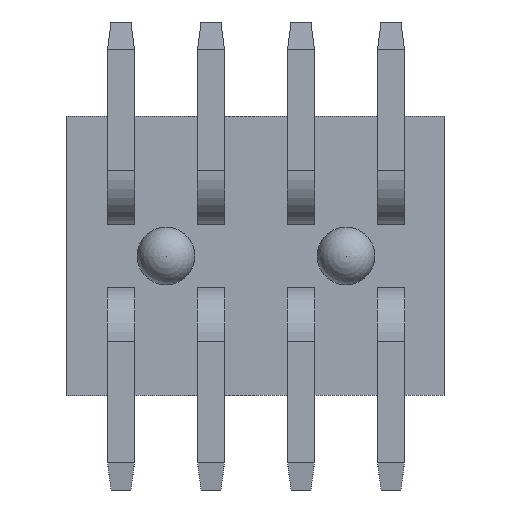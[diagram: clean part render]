
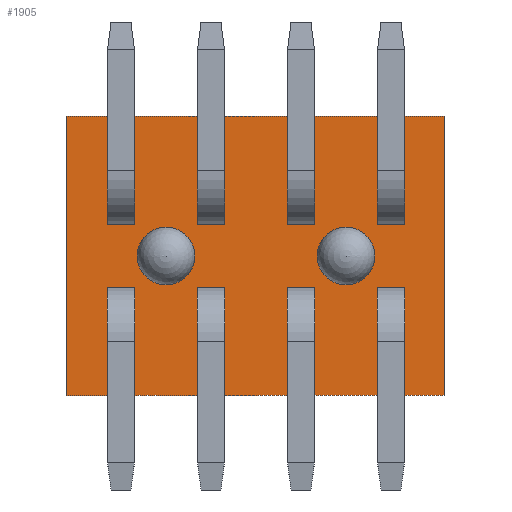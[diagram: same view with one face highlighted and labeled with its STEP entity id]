
A CAD part, front view. The second image highlights one B-rep face of the part: STEP entity #1905.
In plain terms, the highlighted planar face has unit normal (0, -1, 0).
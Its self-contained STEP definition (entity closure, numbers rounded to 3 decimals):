
#61=CIRCLE('',#2041,0.32);
#62=CIRCLE('',#2042,0.32);
#247=ORIENTED_EDGE('',*,*,#689,.F.);
#248=ORIENTED_EDGE('',*,*,#690,.F.);
#249=ORIENTED_EDGE('',*,*,#661,.T.);
#250=ORIENTED_EDGE('',*,*,#685,.T.);
#251=ORIENTED_EDGE('',*,*,#668,.T.);
#252=ORIENTED_EDGE('',*,*,#665,.T.);
#253=ORIENTED_EDGE('',*,*,#651,.T.);
#254=ORIENTED_EDGE('',*,*,#683,.T.);
#255=ORIENTED_EDGE('',*,*,#658,.T.);
#256=ORIENTED_EDGE('',*,*,#655,.T.);
#257=ORIENTED_EDGE('',*,*,#641,.T.);
#258=ORIENTED_EDGE('',*,*,#681,.T.);
#259=ORIENTED_EDGE('',*,*,#648,.T.);
#260=ORIENTED_EDGE('',*,*,#645,.T.);
#261=ORIENTED_EDGE('',*,*,#631,.T.);
#262=ORIENTED_EDGE('',*,*,#679,.T.);
#263=ORIENTED_EDGE('',*,*,#638,.T.);
#264=ORIENTED_EDGE('',*,*,#635,.T.);
#265=ORIENTED_EDGE('',*,*,#621,.T.);
#266=ORIENTED_EDGE('',*,*,#677,.T.);
#267=ORIENTED_EDGE('',*,*,#628,.T.);
#268=ORIENTED_EDGE('',*,*,#625,.T.);
#269=ORIENTED_EDGE('',*,*,#611,.T.);
#270=ORIENTED_EDGE('',*,*,#675,.T.);
#271=ORIENTED_EDGE('',*,*,#618,.T.);
#272=ORIENTED_EDGE('',*,*,#615,.T.);
#273=ORIENTED_EDGE('',*,*,#601,.T.);
#274=ORIENTED_EDGE('',*,*,#673,.T.);
#275=ORIENTED_EDGE('',*,*,#608,.T.);
#276=ORIENTED_EDGE('',*,*,#605,.T.);
#277=ORIENTED_EDGE('',*,*,#591,.T.);
#278=ORIENTED_EDGE('',*,*,#671,.T.);
#279=ORIENTED_EDGE('',*,*,#598,.T.);
#280=ORIENTED_EDGE('',*,*,#595,.T.);
#281=ORIENTED_EDGE('',*,*,#581,.F.);
#282=ORIENTED_EDGE('',*,*,#687,.F.);
#283=ORIENTED_EDGE('',*,*,#588,.F.);
#284=ORIENTED_EDGE('',*,*,#585,.F.);
#581=EDGE_CURVE('',#838,#839,#1008,.T.);
#585=EDGE_CURVE('',#839,#842,#1012,.T.);
#588=EDGE_CURVE('',#842,#844,#1015,.T.);
#591=EDGE_CURVE('',#846,#847,#1018,.T.);
#595=EDGE_CURVE('',#850,#846,#1022,.T.);
#598=EDGE_CURVE('',#852,#850,#1025,.T.);
#601=EDGE_CURVE('',#854,#855,#1028,.T.);
#605=EDGE_CURVE('',#858,#854,#1032,.T.);
#608=EDGE_CURVE('',#860,#858,#1035,.T.);
#611=EDGE_CURVE('',#862,#863,#1038,.T.);
#615=EDGE_CURVE('',#866,#862,#1042,.T.);
#618=EDGE_CURVE('',#868,#866,#1045,.T.);
#621=EDGE_CURVE('',#870,#871,#1048,.T.);
#625=EDGE_CURVE('',#874,#870,#1052,.T.);
#628=EDGE_CURVE('',#876,#874,#1055,.T.);
#631=EDGE_CURVE('',#878,#879,#1058,.T.);
#635=EDGE_CURVE('',#882,#878,#1062,.T.);
#638=EDGE_CURVE('',#884,#882,#1065,.T.);
#641=EDGE_CURVE('',#886,#887,#1068,.T.);
#645=EDGE_CURVE('',#890,#886,#1072,.T.);
#648=EDGE_CURVE('',#892,#890,#1075,.T.);
#651=EDGE_CURVE('',#894,#895,#1078,.T.);
#655=EDGE_CURVE('',#898,#894,#1082,.T.);
#658=EDGE_CURVE('',#900,#898,#1085,.T.);
#661=EDGE_CURVE('',#902,#903,#1088,.T.);
#665=EDGE_CURVE('',#906,#902,#1092,.T.);
#668=EDGE_CURVE('',#908,#906,#1095,.T.);
#671=EDGE_CURVE('',#847,#852,#1098,.T.);
#673=EDGE_CURVE('',#855,#860,#1100,.T.);
#675=EDGE_CURVE('',#863,#868,#1102,.T.);
#677=EDGE_CURVE('',#871,#876,#1104,.T.);
#679=EDGE_CURVE('',#879,#884,#1106,.T.);
#681=EDGE_CURVE('',#887,#892,#1108,.T.);
#683=EDGE_CURVE('',#895,#900,#1110,.T.);
#685=EDGE_CURVE('',#903,#908,#1112,.T.);
#687=EDGE_CURVE('',#844,#838,#1114,.T.);
#689=EDGE_CURVE('',#910,#910,#61,.F.);
#690=EDGE_CURVE('',#911,#911,#62,.F.);
#838=VERTEX_POINT('',#2598);
#839=VERTEX_POINT('',#2599);
#842=VERTEX_POINT('',#2607);
#844=VERTEX_POINT('',#2613);
#846=VERTEX_POINT('',#2619);
#847=VERTEX_POINT('',#2620);
#850=VERTEX_POINT('',#2628);
#852=VERTEX_POINT('',#2634);
#854=VERTEX_POINT('',#2640);
#855=VERTEX_POINT('',#2641);
#858=VERTEX_POINT('',#2649);
#860=VERTEX_POINT('',#2655);
#862=VERTEX_POINT('',#2661);
#863=VERTEX_POINT('',#2662);
#866=VERTEX_POINT('',#2670);
#868=VERTEX_POINT('',#2676);
#870=VERTEX_POINT('',#2682);
#871=VERTEX_POINT('',#2683);
#874=VERTEX_POINT('',#2691);
#876=VERTEX_POINT('',#2697);
#878=VERTEX_POINT('',#2703);
#879=VERTEX_POINT('',#2704);
#882=VERTEX_POINT('',#2712);
#884=VERTEX_POINT('',#2718);
#886=VERTEX_POINT('',#2724);
#887=VERTEX_POINT('',#2725);
#890=VERTEX_POINT('',#2733);
#892=VERTEX_POINT('',#2739);
#894=VERTEX_POINT('',#2745);
#895=VERTEX_POINT('',#2746);
#898=VERTEX_POINT('',#2754);
#900=VERTEX_POINT('',#2760);
#902=VERTEX_POINT('',#2766);
#903=VERTEX_POINT('',#2767);
#906=VERTEX_POINT('',#2775);
#908=VERTEX_POINT('',#2781);
#910=VERTEX_POINT('',#2815);
#911=VERTEX_POINT('',#2817);
#1008=LINE('',#2597,#1259);
#1012=LINE('',#2606,#1263);
#1015=LINE('',#2612,#1266);
#1018=LINE('',#2618,#1269);
#1022=LINE('',#2627,#1273);
#1025=LINE('',#2633,#1276);
#1028=LINE('',#2639,#1279);
#1032=LINE('',#2648,#1283);
#1035=LINE('',#2654,#1286);
#1038=LINE('',#2660,#1289);
#1042=LINE('',#2669,#1293);
#1045=LINE('',#2675,#1296);
#1048=LINE('',#2681,#1299);
#1052=LINE('',#2690,#1303);
#1055=LINE('',#2696,#1306);
#1058=LINE('',#2702,#1309);
#1062=LINE('',#2711,#1313);
#1065=LINE('',#2717,#1316);
#1068=LINE('',#2723,#1319);
#1072=LINE('',#2732,#1323);
#1075=LINE('',#2738,#1326);
#1078=LINE('',#2744,#1329);
#1082=LINE('',#2753,#1333);
#1085=LINE('',#2759,#1336);
#1088=LINE('',#2765,#1339);
#1092=LINE('',#2774,#1343);
#1095=LINE('',#2780,#1346);
#1098=LINE('',#2786,#1349);
#1100=LINE('',#2789,#1351);
#1102=LINE('',#2792,#1353);
#1104=LINE('',#2795,#1355);
#1106=LINE('',#2798,#1357);
#1108=LINE('',#2801,#1359);
#1110=LINE('',#2804,#1361);
#1112=LINE('',#2807,#1363);
#1114=LINE('',#2810,#1365);
#1259=VECTOR('',#2120,1000.);
#1263=VECTOR('',#2126,1000.);
#1266=VECTOR('',#2131,1000.);
#1269=VECTOR('',#2136,1000.);
#1273=VECTOR('',#2142,1000.);
#1276=VECTOR('',#2147,1000.);
#1279=VECTOR('',#2152,1000.);
#1283=VECTOR('',#2158,1000.);
#1286=VECTOR('',#2163,1000.);
#1289=VECTOR('',#2168,1000.);
#1293=VECTOR('',#2174,1000.);
#1296=VECTOR('',#2179,1000.);
#1299=VECTOR('',#2184,1000.);
#1303=VECTOR('',#2190,1000.);
#1306=VECTOR('',#2195,1000.);
#1309=VECTOR('',#2200,1000.);
#1313=VECTOR('',#2206,1000.);
#1316=VECTOR('',#2211,1000.);
#1319=VECTOR('',#2216,1000.);
#1323=VECTOR('',#2222,1000.);
#1326=VECTOR('',#2227,1000.);
#1329=VECTOR('',#2232,1000.);
#1333=VECTOR('',#2238,1000.);
#1336=VECTOR('',#2243,1000.);
#1339=VECTOR('',#2248,1000.);
#1343=VECTOR('',#2254,1000.);
#1346=VECTOR('',#2259,1000.);
#1349=VECTOR('',#2264,1000.);
#1351=VECTOR('',#2268,1000.);
#1353=VECTOR('',#2272,1000.);
#1355=VECTOR('',#2276,1000.);
#1357=VECTOR('',#2280,1000.);
#1359=VECTOR('',#2284,1000.);
#1361=VECTOR('',#2288,1000.);
#1363=VECTOR('',#2292,1000.);
#1365=VECTOR('',#2296,1000.);
#1555=EDGE_LOOP('',(#247));
#1556=EDGE_LOOP('',(#248));
#1557=EDGE_LOOP('',(#249,#250,#251,#252));
#1558=EDGE_LOOP('',(#253,#254,#255,#256));
#1559=EDGE_LOOP('',(#257,#258,#259,#260));
#1560=EDGE_LOOP('',(#261,#262,#263,#264));
#1561=EDGE_LOOP('',(#265,#266,#267,#268));
#1562=EDGE_LOOP('',(#269,#270,#271,#272));
#1563=EDGE_LOOP('',(#273,#274,#275,#276));
#1564=EDGE_LOOP('',(#277,#278,#279,#280));
#1565=EDGE_LOOP('',(#281,#282,#283,#284));
#1688=FACE_BOUND('',#1555,.T.);
#1689=FACE_BOUND('',#1556,.T.);
#1690=FACE_BOUND('',#1557,.T.);
#1691=FACE_BOUND('',#1558,.T.);
#1692=FACE_BOUND('',#1559,.T.);
#1693=FACE_BOUND('',#1560,.T.);
#1694=FACE_BOUND('',#1561,.T.);
#1695=FACE_BOUND('',#1562,.T.);
#1696=FACE_BOUND('',#1563,.T.);
#1697=FACE_BOUND('',#1564,.T.);
#1698=FACE_BOUND('',#1565,.T.);
#1813=PLANE('',#2040);
#1905=ADVANCED_FACE('',(#1688,#1689,#1690,#1691,#1692,#1693,#1694,#1695,
#1696,#1697,#1698),#1813,.F.);
#2040=AXIS2_PLACEMENT_3D('',#2813,#2300,#2301);
#2041=AXIS2_PLACEMENT_3D('',#2814,#2302,#2303);
#2042=AXIS2_PLACEMENT_3D('',#2816,#2304,#2305);
#2120=DIRECTION('',(0.,0.,1.));
#2126=DIRECTION('',(1.,0.,0.));
#2131=DIRECTION('',(0.,0.,-1.));
#2136=DIRECTION('',(0.,0.,1.));
#2142=DIRECTION('',(-1.,0.,0.));
#2147=DIRECTION('',(0.,0.,-1.));
#2152=DIRECTION('',(0.,0.,1.));
#2158=DIRECTION('',(-1.,0.,0.));
#2163=DIRECTION('',(0.,0.,-1.));
#2168=DIRECTION('',(0.,0.,1.));
#2174=DIRECTION('',(-1.,0.,0.));
#2179=DIRECTION('',(0.,0.,-1.));
#2184=DIRECTION('',(0.,0.,1.));
#2190=DIRECTION('',(-1.,0.,0.));
#2195=DIRECTION('',(0.,0.,-1.));
#2200=DIRECTION('',(0.,0.,1.));
#2206=DIRECTION('',(-1.,0.,0.));
#2211=DIRECTION('',(0.,0.,-1.));
#2216=DIRECTION('',(0.,0.,1.));
#2222=DIRECTION('',(-1.,0.,0.));
#2227=DIRECTION('',(0.,0.,-1.));
#2232=DIRECTION('',(0.,0.,1.));
#2238=DIRECTION('',(-1.,0.,0.));
#2243=DIRECTION('',(0.,0.,-1.));
#2248=DIRECTION('',(0.,0.,1.));
#2254=DIRECTION('',(-1.,0.,0.));
#2259=DIRECTION('',(0.,0.,-1.));
#2264=DIRECTION('',(1.,0.,0.));
#2268=DIRECTION('',(1.,0.,0.));
#2272=DIRECTION('',(1.,0.,0.));
#2276=DIRECTION('',(1.,0.,0.));
#2280=DIRECTION('',(1.,0.,0.));
#2284=DIRECTION('',(1.,0.,0.));
#2288=DIRECTION('',(1.,0.,0.));
#2292=DIRECTION('',(1.,0.,0.));
#2296=DIRECTION('',(-1.,0.,0.));
#2300=DIRECTION('',(0.,1.,0.));
#2301=DIRECTION('',(0.,0.,1.));
#2302=DIRECTION('',(0.,1.,0.));
#2303=DIRECTION('',(0.,0.,1.));
#2304=DIRECTION('',(0.,1.,0.));
#2305=DIRECTION('',(0.,0.,1.));
#2597=CARTESIAN_POINT('',(0.,0.,0.));
#2598=CARTESIAN_POINT('',(0.,0.,0.));
#2599=CARTESIAN_POINT('',(0.,0.,3.1));
#2606=CARTESIAN_POINT('',(0.,0.,3.1));
#2607=CARTESIAN_POINT('',(4.2,0.,3.1));
#2612=CARTESIAN_POINT('',(4.2,0.,3.1));
#2613=CARTESIAN_POINT('',(4.2,0.,0.));
#2618=CARTESIAN_POINT('',(3.45,0.,0.9));
#2619=CARTESIAN_POINT('',(3.45,0.,0.9));
#2620=CARTESIAN_POINT('',(3.45,0.,1.2));
#2627=CARTESIAN_POINT('',(3.75,0.,0.9));
#2628=CARTESIAN_POINT('',(3.75,0.,0.9));
#2633=CARTESIAN_POINT('',(3.75,0.,1.2));
#2634=CARTESIAN_POINT('',(3.75,0.,1.2));
#2639=CARTESIAN_POINT('',(3.45,0.,1.9));
#2640=CARTESIAN_POINT('',(3.45,0.,1.9));
#2641=CARTESIAN_POINT('',(3.45,0.,2.2));
#2648=CARTESIAN_POINT('',(3.75,0.,1.9));
#2649=CARTESIAN_POINT('',(3.75,0.,1.9));
#2654=CARTESIAN_POINT('',(3.75,0.,2.2));
#2655=CARTESIAN_POINT('',(3.75,0.,2.2));
#2660=CARTESIAN_POINT('',(2.45,0.,0.9));
#2661=CARTESIAN_POINT('',(2.45,0.,0.9));
#2662=CARTESIAN_POINT('',(2.45,0.,1.2));
#2669=CARTESIAN_POINT('',(2.75,0.,0.9));
#2670=CARTESIAN_POINT('',(2.75,0.,0.9));
#2675=CARTESIAN_POINT('',(2.75,0.,1.2));
#2676=CARTESIAN_POINT('',(2.75,0.,1.2));
#2681=CARTESIAN_POINT('',(2.45,0.,1.9));
#2682=CARTESIAN_POINT('',(2.45,0.,1.9));
#2683=CARTESIAN_POINT('',(2.45,0.,2.2));
#2690=CARTESIAN_POINT('',(2.75,0.,1.9));
#2691=CARTESIAN_POINT('',(2.75,0.,1.9));
#2696=CARTESIAN_POINT('',(2.75,0.,2.2));
#2697=CARTESIAN_POINT('',(2.75,0.,2.2));
#2702=CARTESIAN_POINT('',(1.45,0.,0.9));
#2703=CARTESIAN_POINT('',(1.45,0.,0.9));
#2704=CARTESIAN_POINT('',(1.45,0.,1.2));
#2711=CARTESIAN_POINT('',(1.75,0.,0.9));
#2712=CARTESIAN_POINT('',(1.75,0.,0.9));
#2717=CARTESIAN_POINT('',(1.75,0.,1.2));
#2718=CARTESIAN_POINT('',(1.75,0.,1.2));
#2723=CARTESIAN_POINT('',(1.45,0.,1.9));
#2724=CARTESIAN_POINT('',(1.45,0.,1.9));
#2725=CARTESIAN_POINT('',(1.45,0.,2.2));
#2732=CARTESIAN_POINT('',(1.75,0.,1.9));
#2733=CARTESIAN_POINT('',(1.75,0.,1.9));
#2738=CARTESIAN_POINT('',(1.75,0.,2.2));
#2739=CARTESIAN_POINT('',(1.75,0.,2.2));
#2744=CARTESIAN_POINT('',(0.45,0.,0.9));
#2745=CARTESIAN_POINT('',(0.45,0.,0.9));
#2746=CARTESIAN_POINT('',(0.45,0.,1.2));
#2753=CARTESIAN_POINT('',(0.75,0.,0.9));
#2754=CARTESIAN_POINT('',(0.75,0.,0.9));
#2759=CARTESIAN_POINT('',(0.75,0.,1.2));
#2760=CARTESIAN_POINT('',(0.75,0.,1.2));
#2765=CARTESIAN_POINT('',(0.45,0.,1.9));
#2766=CARTESIAN_POINT('',(0.45,0.,1.9));
#2767=CARTESIAN_POINT('',(0.45,0.,2.2));
#2774=CARTESIAN_POINT('',(0.75,0.,1.9));
#2775=CARTESIAN_POINT('',(0.75,0.,1.9));
#2780=CARTESIAN_POINT('',(0.75,0.,2.2));
#2781=CARTESIAN_POINT('',(0.75,0.,2.2));
#2786=CARTESIAN_POINT('',(3.45,0.,1.2));
#2789=CARTESIAN_POINT('',(3.45,0.,2.2));
#2792=CARTESIAN_POINT('',(2.45,0.,1.2));
#2795=CARTESIAN_POINT('',(2.45,0.,2.2));
#2798=CARTESIAN_POINT('',(1.45,0.,1.2));
#2801=CARTESIAN_POINT('',(1.45,0.,2.2));
#2804=CARTESIAN_POINT('',(0.45,0.,1.2));
#2807=CARTESIAN_POINT('',(0.45,0.,2.2));
#2810=CARTESIAN_POINT('',(4.2,0.,0.));
#2813=CARTESIAN_POINT('',(0.,0.,0.));
#2814=CARTESIAN_POINT('',(3.1,0.,1.55));
#2815=CARTESIAN_POINT('',(3.1,0.,1.87));
#2816=CARTESIAN_POINT('',(1.1,0.,1.55));
#2817=CARTESIAN_POINT('',(1.1,0.,1.87));
